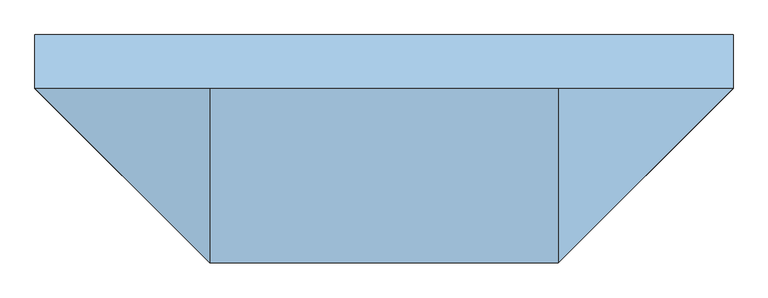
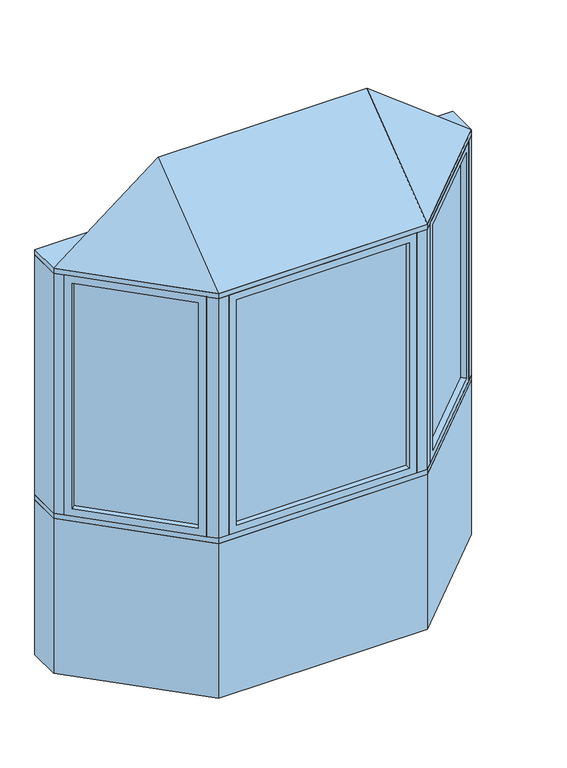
"""IFC4 building model written with IfcOpenShell, lengths in millimetres: window geometry, Pollard_Windows_Tudor Casement Bows and Bays : AML-BAY 45 AFR0512-10-600."""

from ifc_helpers import new_model, si_unit, frame, origin, origin_with_axes, place, context, project, spatial, polyline, outline, extrude, faceted_brep, source, transform, mapped, element, save


def window_315856e1(model_context):
    return source(origin(), model_context, "Body", "SolidModel", [
        extrude(outline(polyline([(924.0964271, -104.763169), (528.474814, -500.3847822), (524.8827115, -496.7926797), (920.5043247, -101.1710666), (924.0964271, -104.763169)])), frame((0.0, 0.0, 823.1628), z_axis=(0.0, 0.0, 1.0), x_axis=(1.0, 0.0, 0.0)), (0.0, 0.0, 1.0), 1153.6704),
        faceted_brep([(915.116171, -113.7434252, 835.8628), (933.0766833, -131.7039374, 835.8628), (933.0766833, -131.7039374, 1964.1332), (915.116171, -113.7434252, 1964.1332), (920.5043247, -101.1710666, 823.1628), (924.0964271, -104.763169, 823.1628), (924.0964271, -104.763169, 1976.8332), (920.5043247, -101.1710666, 1976.8332), (893.5635563, -92.1908105, 835.8628), (911.5240686, -110.1513227, 835.8628), (911.5240686, -110.1513227, 1964.1332), (893.5635563, -92.1908105, 1964.1332), (958.4369265, -106.3436941, 799.998), (918.9237996, -66.8305672, 799.998), (918.9237996, -66.8305672, 1999.998), (958.4369265, -106.3436941, 1999.998), (555.4155823, -509.3650383, 1964.1332), (537.4550701, -491.4045261, 1964.1332), (528.474814, -500.3847822, 1976.8332), (524.8827115, -496.7926797, 1976.8332), (533.8629677, -487.8124236, 1964.1332), (515.9024554, -469.8519114, 1964.1332), (490.5422121, -495.2121547, 1999.998), (530.0553391, -534.7252816, 1999.998), (555.4155823, -509.3650383, 835.8628), (537.4550701, -491.4045261, 835.8628), (528.474814, -500.3847822, 823.1628), (524.8827115, -496.7926797, 823.1628), (533.8629677, -487.8124236, 835.8628), (515.9024554, -469.8519114, 835.8628), (490.5422121, -495.2121547, 799.998), (530.0553391, -534.7252816, 799.998)], [[[0, 1, 2, 3]], [[4, 5, 6, 7]], [[8, 9, 10, 11]], [[12, 13, 14, 15]], [[3, 2, 16, 17]], [[7, 6, 18, 19]], [[11, 10, 20, 21]], [[15, 14, 22, 23]], [[17, 16, 24, 25]], [[19, 18, 26, 27]], [[21, 20, 28, 29]], [[23, 22, 30, 31]], [[25, 24, 1, 0]], [[5, 26, 18, 6], [3, 17, 25, 0]], [[27, 26, 5, 4]], [[7, 19, 27, 4], [9, 28, 20, 10]], [[29, 28, 9, 8]], [[13, 30, 22, 14], [11, 21, 29, 8]], [[31, 30, 13, 12]], [[15, 23, 31, 12], [1, 24, 16, 2]]]),
        extrude(outline(polyline([(-528.474814, -500.3847822), (-924.0964271, -104.763169), (-920.5043247, -101.1710666), (-524.8827115, -496.7926797), (-528.474814, -500.3847822)])), frame((0.0, 0.0, 823.1628), z_axis=(0.0, 0.0, 1.0), x_axis=(1.0, 0.0, 0.0)), (0.0, 0.0, 1.0), 1153.6704),
        faceted_brep([(-533.8629677, -487.8124236, 1964.1332), (-515.9024554, -469.8519114, 1964.1332), (-515.9024554, -469.8519114, 835.8628), (-533.8629677, -487.8124236, 835.8628), (-528.474814, -500.3847822, 1976.8332), (-524.8827115, -496.7926797, 1976.8332), (-524.8827115, -496.7926797, 823.1628), (-528.474814, -500.3847822, 823.1628), (-555.4155823, -509.3650383, 1964.1332), (-537.4550701, -491.4045261, 1964.1332), (-537.4550701, -491.4045261, 835.8628), (-555.4155823, -509.3650383, 835.8628), (-490.5422121, -495.2121547, 1999.998), (-530.0553391, -534.7252816, 1999.998), (-530.0553391, -534.7252816, 799.998), (-490.5422121, -495.2121547, 799.998), (-893.5635563, -92.1908105, 835.8628), (-911.5240686, -110.1513227, 835.8628), (-920.5043247, -101.1710666, 823.1628), (-924.0964271, -104.763169, 823.1628), (-915.116171, -113.7434252, 835.8628), (-933.0766833, -131.7039374, 835.8628), (-958.4369265, -106.3436941, 799.998), (-918.9237996, -66.8305672, 799.998), (-893.5635563, -92.1908105, 1964.1332), (-911.5240686, -110.1513227, 1964.1332), (-920.5043247, -101.1710666, 1976.8332), (-924.0964271, -104.763169, 1976.8332), (-915.116171, -113.7434252, 1964.1332), (-933.0766833, -131.7039374, 1964.1332), (-958.4369265, -106.3436941, 1999.998), (-918.9237996, -66.8305672, 1999.998)], [[[0, 1, 2, 3]], [[4, 5, 6, 7]], [[8, 9, 10, 11]], [[12, 13, 14, 15]], [[3, 2, 16, 17]], [[7, 6, 18, 19]], [[11, 10, 20, 21]], [[15, 14, 22, 23]], [[17, 16, 24, 25]], [[19, 18, 26, 27]], [[21, 20, 28, 29]], [[23, 22, 30, 31]], [[15, 23, 31, 12], [1, 24, 16, 2]], [[25, 24, 1, 0]], [[5, 26, 18, 6], [3, 17, 25, 0]], [[27, 26, 5, 4]], [[7, 19, 27, 4], [9, 28, 20, 10]], [[29, 28, 9, 8]], [[13, 30, 22, 14], [11, 21, 29, 8]], [[31, 30, 13, 12]]]),
        extrude(outline(polyline([(421.5352, -544.6806207), (-421.5352, -544.6806207), (-421.5352, -539.6006207), (421.5352, -539.6006207), (421.5352, -544.6806207)])), frame((0.0, 0.0, 823.1628), z_axis=(0.0, 0.0, 1.0), x_axis=(1.0, 0.0, 0.0)), (0.0, 0.0, 1.0), 1153.6704),
        faceted_brep([(408.8352, -544.6806207, 835.8628), (408.8352, -570.0806207, 835.8628), (408.8352, -570.0806207, 1964.1332), (408.8352, -544.6806207, 1964.1332), (421.5352, -539.6006207, 823.1628), (421.5352, -544.6806207, 823.1628), (421.5352, -544.6806207, 1976.8332), (421.5352, -539.6006207, 1976.8332), (408.8352, -514.2006207, 835.8628), (408.8352, -539.6006207, 835.8628), (408.8352, -539.6006207, 1964.1332), (408.8352, -514.2006207, 1964.1332), (444.7, -570.0806207, 799.998), (444.7, -514.2006207, 799.998), (444.7, -514.2006207, 1999.998), (444.7, -570.0806207, 1999.998), (-408.8352, -570.0806207, 1964.1332), (-408.8352, -544.6806207, 1964.1332), (-421.5352, -544.6806207, 1976.8332), (-421.5352, -539.6006207, 1976.8332), (-408.8352, -539.6006207, 1964.1332), (-408.8352, -514.2006207, 1964.1332), (-444.7, -514.2006207, 1999.998), (-444.7, -570.0806207, 1999.998), (-408.8352, -570.0806207, 835.8628), (-408.8352, -544.6806207, 835.8628), (-421.5352, -544.6806207, 823.1628), (-421.5352, -539.6006207, 823.1628), (-408.8352, -539.6006207, 835.8628), (-408.8352, -514.2006207, 835.8628), (-444.7, -514.2006207, 799.998), (-444.7, -570.0806207, 799.998)], [[[0, 1, 2, 3]], [[4, 5, 6, 7]], [[8, 9, 10, 11]], [[12, 13, 14, 15]], [[3, 2, 16, 17]], [[7, 6, 18, 19]], [[11, 10, 20, 21]], [[15, 14, 22, 23]], [[17, 16, 24, 25]], [[19, 18, 26, 27]], [[21, 20, 28, 29]], [[23, 22, 30, 31]], [[15, 23, 31, 12], [1, 24, 16, 2]], [[25, 24, 1, 0]], [[5, 26, 18, 6], [3, 17, 25, 0]], [[27, 26, 5, 4]], [[7, 19, 27, 4], [9, 28, 20, 10]], [[29, 28, 9, 8]], [[13, 30, 22, 14], [11, 21, 29, 8]], [[31, 30, 13, 12]]]),
        faceted_brep([(990.0, -74.7806207, 2025.398), (494.7, -570.0806207, 2025.398), (-494.7, -570.0806207, 2025.398), (-990.0, -74.7806207, 2025.398), (-494.7, -74.7806207, 2406.398), (494.7, -74.7806207, 2406.398)], [[[0, 1, 2, 3]], [[3, 2, 4]], [[2, 1, 5, 4]], [[1, 0, 5]], [[0, 3, 4, 5]]]),
        extrude(outline(polyline([(-990.0, 77.6193793), (990.0, 77.6193793), (990.0, -74.7806207), (494.7, -570.0806207), (-494.7, -570.0806207), (-990.0, -74.7806207), (-990.0, 77.6193793)])), frame((0.0, 0.0, 1999.998), z_axis=(0.0, 0.0, 1.0), x_axis=(1.0, 0.0, 0.0)), (0.0, 0.0, 1.0), 25.4),
        extrude(outline(polyline([(-990.0, -74.7806207), (-990.0, 77.6193793), (-926.8738531, 77.6193793), (-926.8738531, -74.7806207), (-958.4369265, -106.3436941), (-990.0, -74.7806207)])), frame((0.0, 0.0, 799.998), z_axis=(0.0, 0.0, 1.0), x_axis=(1.0, 0.0, 0.0)), (0.0, 0.0, 1.0), 1200.0),
        extrude(outline(polyline([(990.0, 77.6193793), (990.0, -74.7806207), (958.4369265, -106.3436941), (926.8738531, -74.7806207), (926.8738531, 77.6193793), (990.0, 77.6193793)])), frame((0.0, 0.0, 799.998), z_axis=(0.0, 0.0, 1.0), x_axis=(1.0, 0.0, 0.0)), (0.0, 0.0, 1.0), 1200.0),
        extrude(outline(polyline([(494.7, -570.0806207), (444.7, -570.0806207), (444.7, -520.0806207), (473.9893219, -520.0806207), (494.7, -499.3699425), (530.0553391, -534.7252816), (494.7, -570.0806207)])), frame((0.0, 0.0, 799.998), z_axis=(0.0, 0.0, 1.0), x_axis=(1.0, 0.0, 0.0)), (0.0, 0.0, 1.0), 1200.0),
        extrude(outline(polyline([(-494.7, -570.0806207), (-530.0553391, -534.7252816), (-494.7, -499.3699425), (-473.9893219, -520.0806207), (-444.7, -520.0806207), (-444.7, -570.0806207), (-494.7, -570.0806207)])), frame((0.0, 0.0, 799.998), z_axis=(0.0, 0.0, 1.0), x_axis=(1.0, 0.0, 0.0)), (0.0, 0.0, 1.0), 1200.0),
        extrude(outline(polyline([(-494.7, -570.0806207), (-990.0, -74.7806207), (-990.0, 77.6193793), (-926.8738531, 77.6193793), (-431.5738531, -417.6806207), (431.5738531, -417.6806207), (926.8738531, 77.6193793), (990.0, 77.6193793), (990.0, -74.7806207), (494.7, -570.0806207), (-494.7, -570.0806207)])), frame((0.0, 0.0, 774.598), z_axis=(0.0, 0.0, 1.0), x_axis=(1.0, 0.0, 0.0)), (0.0, 0.0, 1.0), 25.4),
        extrude(outline(polyline([(-990.0, -74.7806207), (-990.0, 77.6193793), (-926.8738531, 77.6193793), (-431.5738531, -417.6806207), (431.5738531, -417.6806207), (926.8738531, 77.6193793), (990.0, 77.6193793), (990.0, -74.7806207), (494.7, -570.0806207), (-494.7, -570.0806207), (-990.0, -74.7806207)])), origin_with_axes(), (0.0, 0.0, 1.0), 774.598),
    ])


if __name__ == "__main__":
    model = new_model("IFC4")
    model_context = context("Model", 3, world=origin())
    ifc_project = project(units=[si_unit("LENGTHUNIT", "METRE", prefix="MILLI")], contexts=[model_context])
    site = spatial("IfcSite", under=ifc_project)
    building = spatial("IfcBuilding", under=site)
    placement = place(None, origin())
    window_shape = window_315856e1(model_context)
    element("IfcWindow", 1, ObjectType="Pollard_Windows_Tudor Casement Bows and Bays : AML-BAY 45 AFR0512-10-600", at=placement, inside=building, context=model_context, shape_type="MappedRepresentation", body=[
        mapped(window_shape, transform((0.0, 0.0, 0.0), x_axis=(1.0, 0.0, 0.0), y_axis=(0.0, 1.0, 0.0), z_axis=(0.0, 0.0, 1.0))),
    ])
    save(model, "model.ifc")
